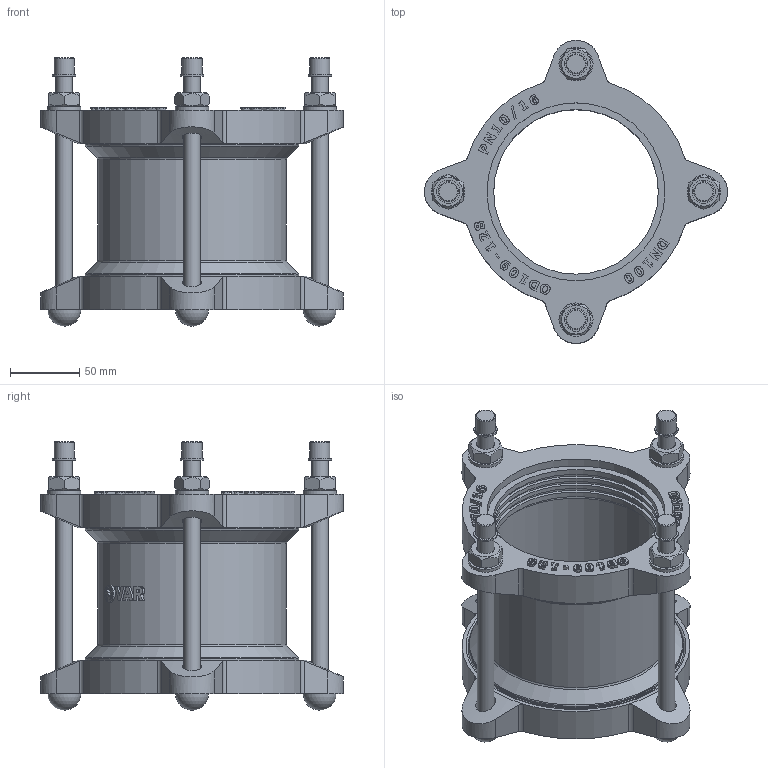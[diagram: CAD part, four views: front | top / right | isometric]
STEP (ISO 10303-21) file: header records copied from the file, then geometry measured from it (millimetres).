
FILE_DESCRIPTION(('STEP AP203'), '1');
FILE_NAME('Cîåäèíèòåëüíàÿ ìóôòà äëÿ æåñòêèõ òðóá', '', ('UNSPECIFIED'), ('UNSPECIFIED'), 'C3D Converter', 'C3D Toolkit', '');
FILE_SCHEMA(('CONFIG_CONTROL_DESIGN'));
Length unit declared in the file: millimetre
Assembly tree (21 placements, depth 2):
  (unnamed)
    (unnamed)
    (unnamed)  x4
    (unnamed)  x4
    (unnamed)  x4
    (unnamed)  x4
    (unnamed)
    (unnamed)
    (unnamed)  x2
Bounding box: 218 x 218 x 193.2 mm (x, y, z)
Volume: 886911.5 mm3; surface area: 327174.1 mm2
Topology: 25 solids, 25 shells, 784 faces, 1969 edges, 1294 vertices
Faces by surface type: extrusion 336, plane 283, cylinder 105, cone 34, torus 22, sphere 4
Full cylindrical faces by diameter (mm): 12 x12, 12.253 x1, 13 x4, 14 x8, 14.4 x4, 16.8 x4, 24 x4, 118.5 x8, 123.25 x6, 128 x3, 132 x2, 136 x3, 154 x2, 156 x4
Entity records: 30818 total; most frequent: CARTESIAN_POINT 10833, ORIENTED_EDGE 3406, DIRECTION 2159, EDGE_CURVE 1703, VERTEX_POINT 1164, VECTOR 1111, B_SPLINE_CURVE_WITH_KNOTS 1072, EDGE_LOOP 823
